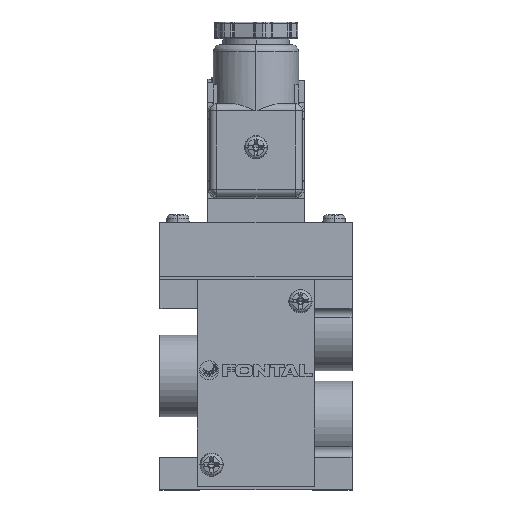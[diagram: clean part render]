
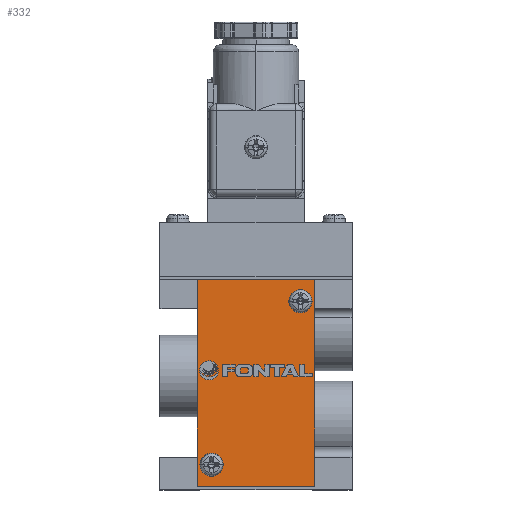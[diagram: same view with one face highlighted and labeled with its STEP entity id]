
A CAD part, top view. The second image highlights one B-rep face of the part: STEP entity #332.
In plain terms, the highlighted planar face has unit normal (0, 0, 1).
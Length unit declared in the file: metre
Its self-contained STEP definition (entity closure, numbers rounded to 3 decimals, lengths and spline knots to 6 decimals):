
#332 = ADVANCED_FACE ( 'NONE', ( #4575, #9637, #21075 ), #10678, .F. ) ;
#1405 = AXIS2_PLACEMENT_3D ( 'NONE', #21360, #8484, #23544 ) ;
#2136 = ORIENTED_EDGE ( 'NONE', *, *, #10517, .F. ) ;
#2805 = VERTEX_POINT ( 'NONE', #27664 ) ;
#2879 = DIRECTION ( 'NONE',  ( 0., 0., 1. ) ) ;
#3198 = VERTEX_POINT ( 'NONE', #8056 ) ;
#3351 = VECTOR ( 'NONE', #4315, 1. ) ;
#3696 = DIRECTION ( 'NONE',  ( 0., -1., 0. ) ) ;
#3914 = CIRCLE ( 'NONE', #16666, 0.002 ) ;
#4013 = CARTESIAN_POINT ( 'NONE',  ( 0.0165, 0.029, 0.0016 ) ) ;
#4260 = DIRECTION ( 'NONE',  ( 0., 0., -1. ) ) ;
#4315 = DIRECTION ( 'NONE',  ( -1., 0., 0. ) ) ;
#4371 = AXIS2_PLACEMENT_3D ( 'NONE', #15832, #2879, #17968 ) ;
#4415 = EDGE_CURVE ( 'NONE', #9878, #20850, #13773, .T. ) ;
#4575 = FACE_BOUND ( 'NONE', #12160, .T. ) ;
#4973 = CARTESIAN_POINT ( 'NONE',  ( -0.0165, -0.029, 0.0016 ) ) ;
#5405 = ORIENTED_EDGE ( 'NONE', *, *, #26547, .F. ) ;
#6603 = CARTESIAN_POINT ( 'NONE',  ( 0.0125, 0.023, 0.0016 ) ) ;
#6805 = DIRECTION ( 'NONE',  ( 0., 1., 0. ) ) ;
#6889 = EDGE_CURVE ( 'NONE', #23432, #3198, #9580, .T. ) ;
#8015 = ORIENTED_EDGE ( 'NONE', *, *, #17669, .F. ) ;
#8056 = CARTESIAN_POINT ( 'NONE',  ( 0.0105, 0.023, 0.0016 ) ) ;
#8484 = DIRECTION ( 'NONE',  ( 0., 0., 1. ) ) ;
#8771 = DIRECTION ( 'NONE',  ( 1., 0., 0. ) ) ;
#9580 = CIRCLE ( 'NONE', #4371, 0.002 ) ;
#9637 = FACE_BOUND ( 'NONE', #23105, .T. ) ;
#9798 = VERTEX_POINT ( 'NONE', #4013 ) ;
#9878 = VERTEX_POINT ( 'NONE', #17369 ) ;
#10288 = CARTESIAN_POINT ( 'NONE',  ( -0.0125, -0.023, 0.0016 ) ) ;
#10517 = EDGE_CURVE ( 'NONE', #24733, #12261, #27702, .T. ) ;
#10678 = PLANE ( 'NONE',  #16746 ) ;
#11432 = ORIENTED_EDGE ( 'NONE', *, *, #13141, .F. ) ;
#12160 = EDGE_LOOP ( 'NONE', ( #24633, #17503 ) ) ;
#12261 = VERTEX_POINT ( 'NONE', #27257 ) ;
#12467 = DIRECTION ( 'NONE',  ( 1., 0., 0. ) ) ;
#13141 = EDGE_CURVE ( 'NONE', #2805, #24733, #20537, .T. ) ;
#13773 = CIRCLE ( 'NONE', #1405, 0.002 ) ;
#14458 = AXIS2_PLACEMENT_3D ( 'NONE', #6603, #21641, #8771 ) ;
#15007 = CARTESIAN_POINT ( 'NONE',  ( 0.0165, -0.029, 0.0016 ) ) ;
#15063 = CARTESIAN_POINT ( 'NONE',  ( 0., -0.029, 0.0016 ) ) ;
#15832 = CARTESIAN_POINT ( 'NONE',  ( 0.0125, 0.023, 0.0016 ) ) ;
#15837 = CIRCLE ( 'NONE', #14458, 0.002 ) ;
#16660 = VECTOR ( 'NONE', #20492, 1. ) ;
#16666 = AXIS2_PLACEMENT_3D ( 'NONE', #10288, #25339, #12467 ) ;
#16746 = AXIS2_PLACEMENT_3D ( 'NONE', #15007, #4260, #19306 ) ;
#17339 = EDGE_LOOP ( 'NONE', ( #27815, #2136, #11432, #8015 ) ) ;
#17369 = CARTESIAN_POINT ( 'NONE',  ( -0.0105, -0.023, 0.0016 ) ) ;
#17503 = ORIENTED_EDGE ( 'NONE', *, *, #23322, .F. ) ;
#17669 = EDGE_CURVE ( 'NONE', #9798, #2805, #27132, .T. ) ;
#17968 = DIRECTION ( 'NONE',  ( 1., 0., 0. ) ) ;
#18502 = EDGE_CURVE ( 'NONE', #12261, #9798, #21665, .T. ) ;
#19306 = DIRECTION ( 'NONE',  ( -1., 0., 0. ) ) ;
#20492 = DIRECTION ( 'NONE',  ( 1., 0., 0. ) ) ;
#20537 = LINE ( 'NONE', #15063, #3351 ) ;
#20850 = VERTEX_POINT ( 'NONE', #23013 ) ;
#21075 = FACE_OUTER_BOUND ( 'NONE', #17339, .T. ) ;
#21271 = VECTOR ( 'NONE', #6805, 1. ) ;
#21360 = CARTESIAN_POINT ( 'NONE',  ( -0.0125, -0.023, 0.0016 ) ) ;
#21381 = VECTOR ( 'NONE', #3696, 1. ) ;
#21641 = DIRECTION ( 'NONE',  ( 0., 0., 1. ) ) ;
#21665 = LINE ( 'NONE', #22666, #16660 ) ;
#21822 = CARTESIAN_POINT ( 'NONE',  ( 0.0145, 0.023, 0.0016 ) ) ;
#22666 = CARTESIAN_POINT ( 'NONE',  ( 0., 0.029, 0.0016 ) ) ;
#23013 = CARTESIAN_POINT ( 'NONE',  ( -0.0145, -0.023, 0.0016 ) ) ;
#23105 = EDGE_LOOP ( 'NONE', ( #24289, #5405 ) ) ;
#23322 = EDGE_CURVE ( 'NONE', #3198, #23432, #15837, .T. ) ;
#23432 = VERTEX_POINT ( 'NONE', #21822 ) ;
#23544 = DIRECTION ( 'NONE',  ( 1., 0., 0. ) ) ;
#24289 = ORIENTED_EDGE ( 'NONE', *, *, #4415, .F. ) ;
#24633 = ORIENTED_EDGE ( 'NONE', *, *, #6889, .F. ) ;
#24733 = VERTEX_POINT ( 'NONE', #4973 ) ;
#25174 = CARTESIAN_POINT ( 'NONE',  ( 0.0165, 0., 0.0016 ) ) ;
#25339 = DIRECTION ( 'NONE',  ( 0., 0., 1. ) ) ;
#26091 = CARTESIAN_POINT ( 'NONE',  ( -0.0165, 0., 0.0016 ) ) ;
#26547 = EDGE_CURVE ( 'NONE', #20850, #9878, #3914, .T. ) ;
#27132 = LINE ( 'NONE', #25174, #21381 ) ;
#27257 = CARTESIAN_POINT ( 'NONE',  ( -0.0165, 0.029, 0.0016 ) ) ;
#27664 = CARTESIAN_POINT ( 'NONE',  ( 0.0165, -0.029, 0.0016 ) ) ;
#27702 = LINE ( 'NONE', #26091, #21271 ) ;
#27815 = ORIENTED_EDGE ( 'NONE', *, *, #18502, .F. ) ;
